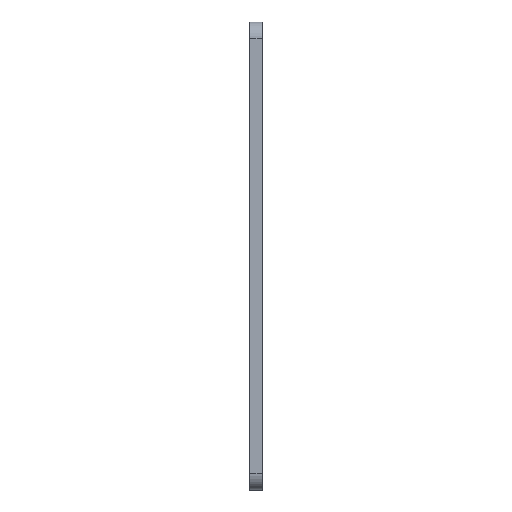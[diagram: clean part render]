
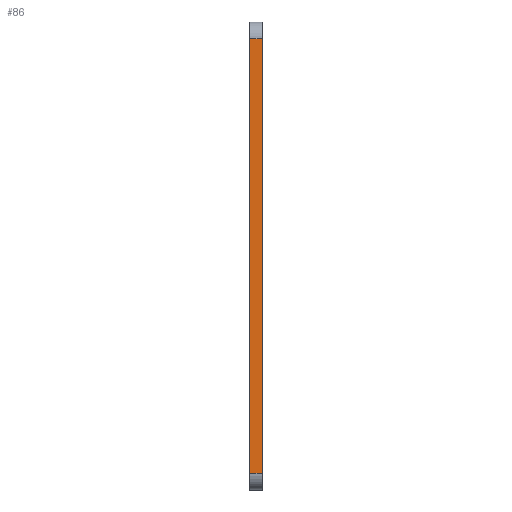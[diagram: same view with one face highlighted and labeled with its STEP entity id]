
A CAD part, left-side view. The second image highlights one B-rep face of the part: STEP entity #86.
In plain terms, the highlighted planar face has unit normal (-1, 0, 0).
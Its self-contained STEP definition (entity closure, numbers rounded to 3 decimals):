
#86 = ADVANCED_FACE( '', ( #144 ), #145, .T. );
#144 = FACE_OUTER_BOUND( '', #220, .T. );
#145 = PLANE( '', #221 );
#220 = EDGE_LOOP( '', ( #371, #372, #373, #374 ) );
#221 = AXIS2_PLACEMENT_3D( '', #375, #376, #377 );
#371 = ORIENTED_EDGE( '', *, *, #521, .F. );
#372 = ORIENTED_EDGE( '', *, *, #525, .F. );
#373 = ORIENTED_EDGE( '', *, *, #492, .T. );
#374 = ORIENTED_EDGE( '', *, *, #469, .T. );
#375 = CARTESIAN_POINT( '', ( -51.5, -1.5, 26. ) );
#376 = DIRECTION( '', ( -1., 0., 0. ) );
#377 = DIRECTION( '', ( 0., 0., 1. ) );
#469 = EDGE_CURVE( '', #539, #536, #540, .T. );
#492 = EDGE_CURVE( '', #582, #539, #583, .T. );
#521 = EDGE_CURVE( '', #635, #536, #637, .T. );
#525 = EDGE_CURVE( '', #582, #635, #641, .T. );
#536 = VERTEX_POINT( '', #652 );
#539 = VERTEX_POINT( '', #655 );
#540 = LINE( '', #656, #657 );
#582 = VERTEX_POINT( '', #709 );
#583 = LINE( '', #710, #711 );
#635 = VERTEX_POINT( '', #776 );
#637 = LINE( '', #778, #779 );
#641 = LINE( '', #786, #787 );
#652 = CARTESIAN_POINT( '', ( -51.5, 0., 26. ) );
#655 = CARTESIAN_POINT( '', ( -51.5, -1.5, 26. ) );
#656 = CARTESIAN_POINT( '', ( -51.5, -1.5, 26. ) );
#657 = VECTOR( '', #811, 1000. );
#709 = CARTESIAN_POINT( '', ( -51.5, -1.5, -26. ) );
#710 = CARTESIAN_POINT( '', ( -51.5, -1.5, 26. ) );
#711 = VECTOR( '', #858, 1000. );
#776 = CARTESIAN_POINT( '', ( -51.5, 0., -26. ) );
#778 = CARTESIAN_POINT( '', ( -51.5, 0., 26. ) );
#779 = VECTOR( '', #917, 1000. );
#786 = CARTESIAN_POINT( '', ( -51.5, -1.5, -26. ) );
#787 = VECTOR( '', #921, 1000. );
#811 = DIRECTION( '', ( 0., 1., 0. ) );
#858 = DIRECTION( '', ( 0., 0., 1. ) );
#917 = DIRECTION( '', ( 0., 0., 1. ) );
#921 = DIRECTION( '', ( 0., 1., 0. ) );
